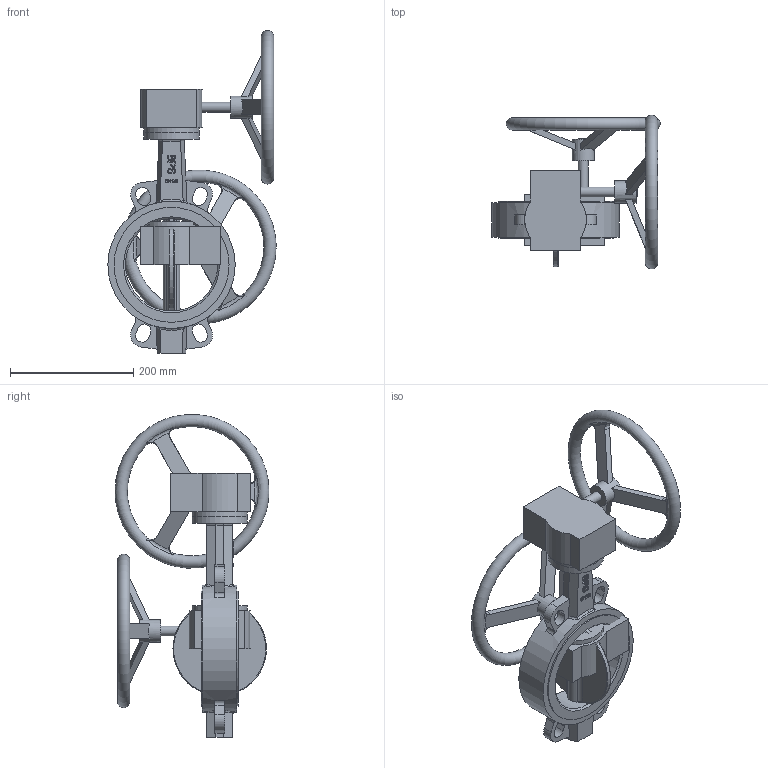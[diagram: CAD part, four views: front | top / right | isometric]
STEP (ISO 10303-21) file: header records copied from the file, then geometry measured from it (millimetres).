
FILE_DESCRIPTION( ( 'Unknown' ), '1' );
FILE_NAME( 'R:/ECCUA/ROOTSI BPS 3D vidinad/Poordklapid Wafer type/Butterfly valve(wafer) with gearbox BPS/STEP formaat/BPS 2303150VX butterfly valve DN150.stp', 'Unknown', ( 'Unknown' ), ( 'Unknown' ), 'PSStep 10.1', 'Unknown', ' ' );
FILE_SCHEMA( ( 'AUTOMOTIVE_DESIGN { 1 0 10303 214 1 1 1 1 }' ) );
Length unit declared in the file: millimetre
Products named in the file (3): Assem1; Butterfly valve wafer type DN150 BPS; Gearbox DN125-150 BPS
Bounding box: 273.5 x 250 x 524.67 mm (x, y, z)
Volume: 5236993.9 mm3; surface area: 631349.7 mm2
Topology: 4 solids, 4 shells, 484 faces, 1270 edges, 838 vertices
Faces by surface type: plane 212, cylinder 102, extrusion 98, bspline 50, torus 18, cone 4
Full cylindrical faces by diameter (mm): 9 x8, 16 x4, 36 x2, 90 x4, 150 x2, 187 x4, 207 x2
Entity records: 14703 total; most frequent: CARTESIAN_POINT 7175, ORIENTED_EDGE 1214, DIRECTION 941, EDGE_CURVE 607, VERTEX_POINT 411, VECTOR 331, EDGE_LOOP 308, AXIS2_PLACEMENT_3D 305
